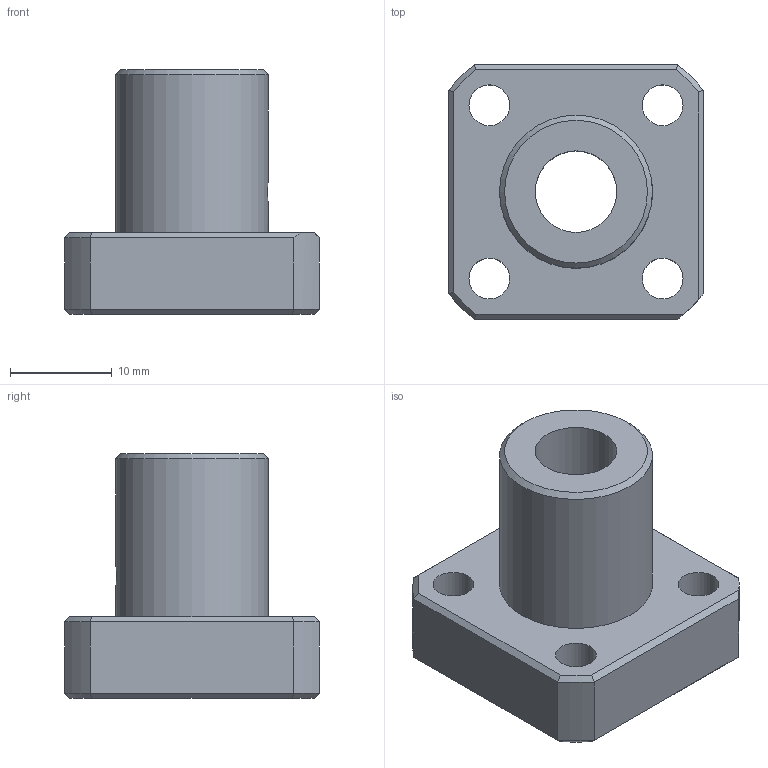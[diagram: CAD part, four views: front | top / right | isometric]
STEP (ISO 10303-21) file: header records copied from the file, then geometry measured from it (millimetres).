
FILE_DESCRIPTION((''),'2;1');
FILE_NAME('D:\製品 (図面)\カタログ用3D\シャフトブロック関連\STEP形式\SFW\SFW8.stp','2010-06-01T16:31:04',('Tsuchiya'),(''),'Autodesk Inventor 10','Autodesk Inventor 10','');
FILE_SCHEMA(('AUTOMOTIVE_DESIGN { 1 0 10303 214 1 1 1 1 }'));
Length unit declared in the file: millimetre
Products named in the file (1): SFW8
Bounding box: 25 x 25 x 24 mm (x, y, z)
Volume: 6084.3 mm3; surface area: 3481.3 mm2
Topology: 1 solids, 1 shells, 52 faces, 128 edges, 82 vertices
Faces by surface type: plane 29, cylinder 10, cone 9, bspline 4
Full cylindrical faces by diameter (mm): 4 x4, 8 x1, 15 x1
Entity records: 1587 total; most frequent: CARTESIAN_POINT 418, DIRECTION 224, ORIENTED_EDGE 222, EDGE_CURVE 111, AXIS2_PLACEMENT_3D 82, EDGE_LOOP 77, VERTEX_POINT 76, VECTOR 60
